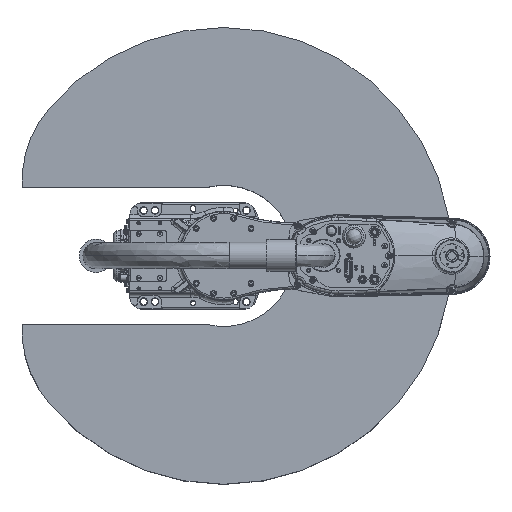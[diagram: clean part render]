
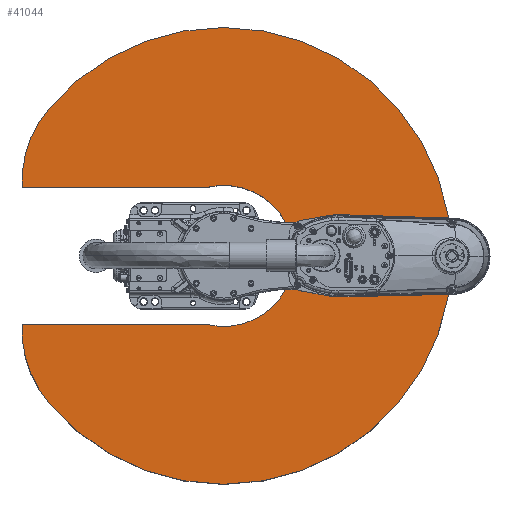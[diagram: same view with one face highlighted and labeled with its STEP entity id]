
A CAD part, top view. The second image highlights one B-rep face of the part: STEP entity #41044.
In plain terms, the highlighted planar face has unit normal (0, 0, 1) as drawn and (0, -1, 0) by its records, which use the part's own axes.
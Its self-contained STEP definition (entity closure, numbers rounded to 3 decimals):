
#4525 = AXIS2_PLACEMENT_3D ( 'NONE', #33738, #234958, #18698 ) ;
#5865 = CARTESIAN_POINT ( 'NONE',  ( 192.836, 0., 229.813 ) ) ;
#6422 = VERTEX_POINT ( 'NONE', #86866 ) ;
#9215 = DIRECTION ( 'NONE',  ( 0., 1., 0. ) ) ;
#9315 = CARTESIAN_POINT ( 'NONE',  ( 96.418, 0., 114.907 ) ) ;
#10725 = ORIENTED_EDGE ( 'NONE', *, *, #46442, .T. ) ;
#16228 = CARTESIAN_POINT ( 'NONE',  ( 90., 0., 264.769 ) ) ;
#18698 = DIRECTION ( 'NONE',  ( 0., 0., 1. ) ) ;
#20561 = VERTEX_POINT ( 'NONE', #170233 ) ;
#20625 = DIRECTION ( 'NONE',  ( 0., 1., 0. ) ) ;
#20948 = ORIENTED_EDGE ( 'NONE', *, *, #172533, .T. ) ;
#27577 = ORIENTED_EDGE ( 'NONE', *, *, #52413, .F. ) ;
#27801 = ORIENTED_EDGE ( 'NONE', *, *, #47051, .F. ) ;
#29251 = VECTOR ( 'NONE', #31674, 1000. ) ;
#31674 = DIRECTION ( 'NONE',  ( 0., 0., 1. ) ) ;
#31843 = VERTEX_POINT ( 'NONE', #5865 ) ;
#32690 = EDGE_LOOP ( 'NONE', ( #10725, #27801, #47861, #224309, #27577, #58117, #20948, #170653 ) ) ;
#33738 = CARTESIAN_POINT ( 'NONE',  ( 0., 0., 0. ) ) ;
#41044 = ADVANCED_FACE ( 'NONE', ( #189894 ), #154020, .F. ) ;
#41452 = AXIS2_PLACEMENT_3D ( 'NONE', #118092, #238511, #57377 ) ;
#43878 = AXIS2_PLACEMENT_3D ( 'NONE', #217373, #237671, #137429 ) ;
#46442 = EDGE_CURVE ( 'NONE', #234407, #206624, #136087, .T. ) ;
#47051 = EDGE_CURVE ( 'NONE', #20561, #206624, #229960, .T. ) ;
#47861 = ORIENTED_EDGE ( 'NONE', *, *, #221269, .F. ) ;
#51178 = AXIS2_PLACEMENT_3D ( 'NONE', #9315, #250208, #211453 ) ;
#52413 = EDGE_CURVE ( 'NONE', #80793, #31843, #168984, .T. ) ;
#57377 = DIRECTION ( 'NONE',  ( 0., 0., -1. ) ) ;
#57922 = CARTESIAN_POINT ( 'NONE',  ( 0., 0., 0. ) ) ;
#58117 = ORIENTED_EDGE ( 'NONE', *, *, #134930, .T. ) ;
#62724 = DIRECTION ( 'NONE',  ( 0., 0., -1. ) ) ;
#71494 = DIRECTION ( 'NONE',  ( 0., 0., -1. ) ) ;
#76437 = DIRECTION ( 'NONE',  ( 0., 1., 0. ) ) ;
#80793 = VERTEX_POINT ( 'NONE', #16228 ) ;
#86866 = CARTESIAN_POINT ( 'NONE',  ( 0., 0., -92.7 ) ) ;
#92225 = CARTESIAN_POINT ( 'NONE',  ( -90., 0., 264.769 ) ) ;
#96247 = VERTEX_POINT ( 'NONE', #165831 ) ;
#118092 = CARTESIAN_POINT ( 'NONE',  ( 0., 0., 0. ) ) ;
#120647 = LINE ( 'NONE', #194453, #130216 ) ;
#130216 = VECTOR ( 'NONE', #71494, 1000. ) ;
#131718 = CIRCLE ( 'NONE', #228546, 92.7 ) ;
#134930 = EDGE_CURVE ( 'NONE', #80793, #169949, #120647, .T. ) ;
#136087 = LINE ( 'NONE', #92225, #29251 ) ;
#137429 = DIRECTION ( 'NONE',  ( 0., 0., -1. ) ) ;
#154020 = PLANE ( 'NONE',  #4525 ) ;
#155510 = CIRCLE ( 'NONE', #237033, 300. ) ;
#165112 = AXIS2_PLACEMENT_3D ( 'NONE', #183059, #20625, #62724 ) ;
#165831 = CARTESIAN_POINT ( 'NONE',  ( 0., 0., -300. ) ) ;
#167437 = DIRECTION ( 'NONE',  ( 0., 0., -1. ) ) ;
#168984 = CIRCLE ( 'NONE', #51178, 150. ) ;
#169949 = VERTEX_POINT ( 'NONE', #171273 ) ;
#170233 = CARTESIAN_POINT ( 'NONE',  ( -192.836, 0., 229.813 ) ) ;
#170653 = ORIENTED_EDGE ( 'NONE', *, *, #244634, .T. ) ;
#171273 = CARTESIAN_POINT ( 'NONE',  ( 90., 0., 22.21 ) ) ;
#172533 = EDGE_CURVE ( 'NONE', #169949, #6422, #181297, .T. ) ;
#181297 = CIRCLE ( 'NONE', #43878, 92.7 ) ;
#182341 = CARTESIAN_POINT ( 'NONE',  ( -90., 0., 22.21 ) ) ;
#183059 = CARTESIAN_POINT ( 'NONE',  ( -96.418, 0., 114.907 ) ) ;
#187619 = CIRCLE ( 'NONE', #41452, 300. ) ;
#189894 = FACE_OUTER_BOUND ( 'NONE', #32690, .T. ) ;
#194453 = CARTESIAN_POINT ( 'NONE',  ( 90., 0., 264.769 ) ) ;
#206624 = VERTEX_POINT ( 'NONE', #229932 ) ;
#211453 = DIRECTION ( 'NONE',  ( 0., 0., -1. ) ) ;
#217373 = CARTESIAN_POINT ( 'NONE',  ( 0., 0., 0. ) ) ;
#221269 = EDGE_CURVE ( 'NONE', #96247, #20561, #187619, .T. ) ;
#224309 = ORIENTED_EDGE ( 'NONE', *, *, #229454, .F. ) ;
#228546 = AXIS2_PLACEMENT_3D ( 'NONE', #57922, #76437, #237327 ) ;
#229454 = EDGE_CURVE ( 'NONE', #31843, #96247, #155510, .T. ) ;
#229932 = CARTESIAN_POINT ( 'NONE',  ( -90., 0., 264.769 ) ) ;
#229960 = CIRCLE ( 'NONE', #165112, 150. ) ;
#234407 = VERTEX_POINT ( 'NONE', #182341 ) ;
#234958 = DIRECTION ( 'NONE',  ( 0., 1., 0. ) ) ;
#237033 = AXIS2_PLACEMENT_3D ( 'NONE', #243999, #9215, #167437 ) ;
#237327 = DIRECTION ( 'NONE',  ( 0., 0., -1. ) ) ;
#237671 = DIRECTION ( 'NONE',  ( 0., 1., 0. ) ) ;
#238511 = DIRECTION ( 'NONE',  ( 0., 1., 0. ) ) ;
#243999 = CARTESIAN_POINT ( 'NONE',  ( 0., 0., 0. ) ) ;
#244634 = EDGE_CURVE ( 'NONE', #6422, #234407, #131718, .T. ) ;
#250208 = DIRECTION ( 'NONE',  ( 0., 1., 0. ) ) ;
